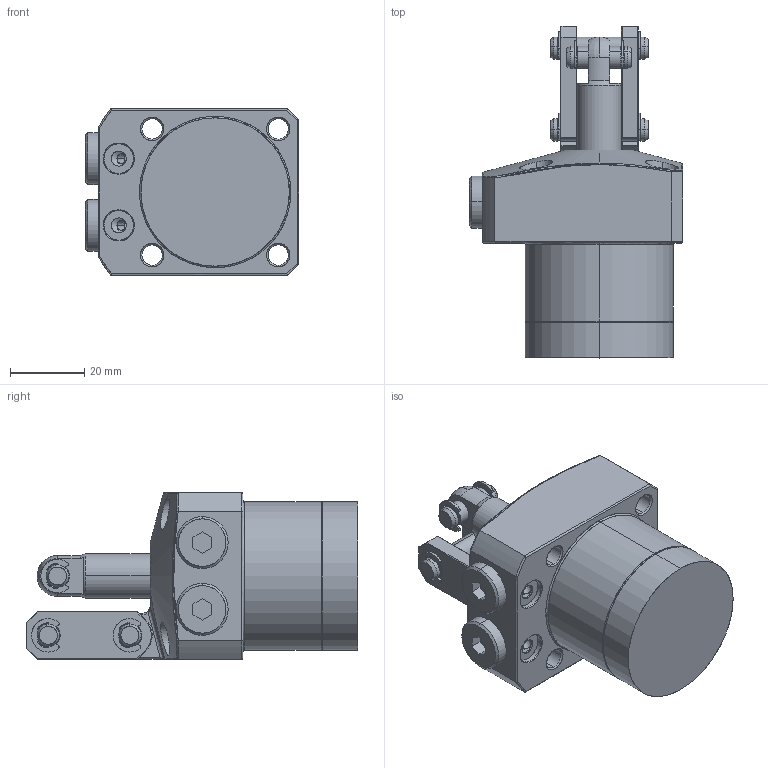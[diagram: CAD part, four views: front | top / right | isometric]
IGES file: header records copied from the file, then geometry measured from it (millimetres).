
Start section: SolidWorks IGES file using analytic representation for surfaces
Global section: file name: D:\abhilash\nijil\cylinder\LKA Series\con v lka\lka40\40cl\40CLPT\0402-0403.IGS; native system: SolidWorks 2010; preprocessor: SolidWorks 2010; author: nidheesh; date: 130730.102915; units: millimetre
Bounding box: 57.5 x 89.5 x 45 mm (x, y, z)
Surface area: 21510.1 mm2 (no closed solid volume)
Topology: 0 solids, 0 shells, 394 faces, 5113 edges, 5108 vertices
Faces by surface type: bspline 213, revolution 181
